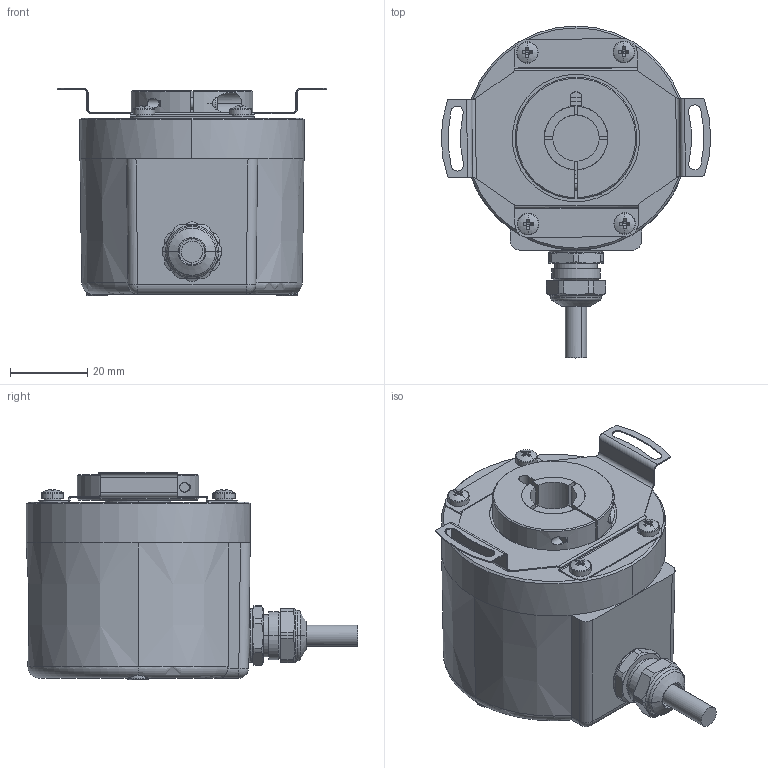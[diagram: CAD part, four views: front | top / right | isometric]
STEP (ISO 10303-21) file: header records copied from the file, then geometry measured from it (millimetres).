
FILE_DESCRIPTION (( 'STEP AP203' ), '1' );
FILE_NAME ('E58HM-SSI-352##.STEP', '2024-04-30T11:49:43', ( '' ), ( '' ), 'SwSTEP 2.0', 'SolidWorks 2023', '' );
FILE_SCHEMA (( 'CONFIG_CONTROL_DESIGN' ));
Length unit declared in the file: millimetre
Products named in the file (1): E58HM-SSI-352##
Bounding box: 69.8 x 85.87 x 53.7 mm (x, y, z)
Volume: 124719.4 mm3; surface area: 25283.6 mm2
Topology: 14 solids, 16 shells, 715 faces, 1720 edges, 1044 vertices
Faces by surface type: plane 358, cylinder 175, cone 100, torus 57, bspline 15, sphere 10
Entity records: 21345 total; most frequent: CARTESIAN_POINT 4683, DIRECTION 3572, ORIENTED_EDGE 3384, EDGE_CURVE 1692, AXIS2_PLACEMENT_3D 1363, VERTEX_POINT 1044, LINE 846, VECTOR 846
